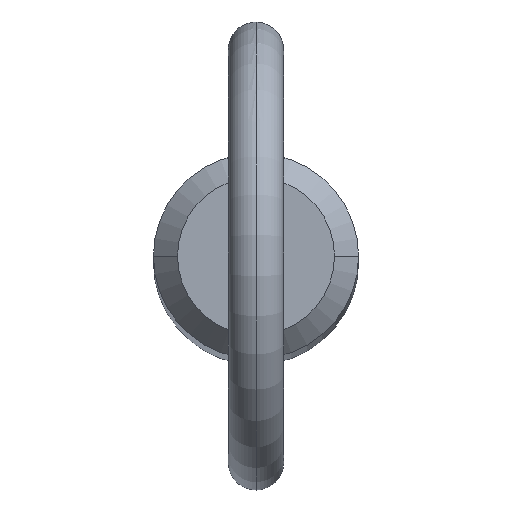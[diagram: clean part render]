
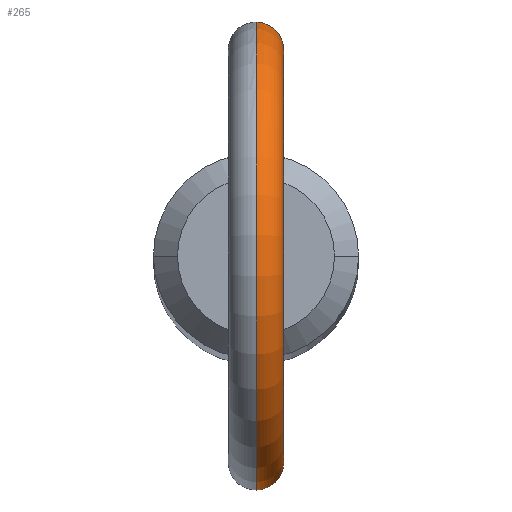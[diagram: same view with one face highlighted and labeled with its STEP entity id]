
A CAD part, top view. The second image highlights one B-rep face of the part: STEP entity #265.
In plain terms, the highlighted toroidal (fillet/blend) face has major radius 11.2 mm and minor radius 1.5 mm.
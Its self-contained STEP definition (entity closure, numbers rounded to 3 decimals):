
#27 = CARTESIAN_POINT ( 'NONE',  ( 0.106, -5.55, 174.945 ) ) ;
#35 = CARTESIAN_POINT ( 'NONE',  ( 0.933, 5.472, 174.504 ) ) ;
#39 = EDGE_CURVE ( 'NONE', #316, #66, #380, .T. ) ;
#46 = CARTESIAN_POINT ( 'NONE',  ( 1.363, -5.38, 172.334 ) ) ;
#66 = VERTEX_POINT ( 'NONE', #394 ) ;
#78 = B_SPLINE_CURVE_WITH_KNOTS ( 'NONE', 3,
 ( #439, #27, #483, #279, #238, #320, #518, #157, #198, #240, #453, #293, #248, #252, #301, #46, #250, #296, #456, #212, #493, #93, #420, #459, #214, #257 ),
 .UNSPECIFIED., .F., .F.,
 ( 4, 2, 2, 2, 2, 2, 2, 2, 2, 2, 2, 2, 4 ),
 ( 0.005, 0.005, 0.005, 0.006, 0.006, 0.007, 0.007, 0.008, 0.008, 0.009, 0.009, 0.009, 0.01 ),
 .UNSPECIFIED. ) ;
#79 = CARTESIAN_POINT ( 'NONE',  ( 0.522, 5.526, 171.565 ) ) ;
#81 = CARTESIAN_POINT ( 'NONE',  ( 0.212, 5.547, 171.488 ) ) ;
#90 = FACE_OUTER_BOUND ( 'NONE', #382, .T. ) ;
#93 = CARTESIAN_POINT ( 'NONE',  ( 0.523, -5.526, 171.566 ) ) ;
#102 = CARTESIAN_POINT ( 'NONE',  ( 0., 0., 182.9 ) ) ;
#116 = DIRECTION ( 'NONE',  ( 0., 0., -1. ) ) ;
#121 = CARTESIAN_POINT ( 'NONE',  ( 0.419, 5.535, 171.532 ) ) ;
#134 = CARTESIAN_POINT ( 'NONE',  ( 0.779, 5.496, 174.648 ) ) ;
#136 = CARTESIAN_POINT ( 'NONE',  ( 0.213, 5.55, 174.945 ) ) ;
#142 = ORIENTED_EDGE ( 'NONE', *, *, #267, .F. ) ;
#147 = DIRECTION ( 'NONE',  ( 1., 0., 0. ) ) ;
#157 = CARTESIAN_POINT ( 'NONE',  ( 1.194, -5.422, 174.171 ) ) ;
#160 = CARTESIAN_POINT ( 'NONE',  ( 1.19, 5.421, 172.062 ) ) ;
#163 = TOROIDAL_SURFACE ( 'NONE', #262, 11.2, 1.5 ) ;
#172 = VERTEX_POINT ( 'NONE', #357 ) ;
#198 = CARTESIAN_POINT ( 'NONE',  ( 1.295, -5.397, 173.982 ) ) ;
#201 = CARTESIAN_POINT ( 'NONE',  ( 1.509, 5.341, 172.953 ) ) ;
#203 = CARTESIAN_POINT ( 'NONE',  ( 0., -5.55, 171.477 ) ) ;
#204 = CARTESIAN_POINT ( 'NONE',  ( 1.352, 5.383, 172.335 ) ) ;
#212 = CARTESIAN_POINT ( 'NONE',  ( 0.807, -5.492, 171.706 ) ) ;
#214 = CARTESIAN_POINT ( 'NONE',  ( 0.107, -5.55, 171.477 ) ) ;
#222 = ORIENTED_EDGE ( 'NONE', *, *, #507, .F. ) ;
#224 = AXIS2_PLACEMENT_3D ( 'NONE', #297, #370, #247 ) ;
#225 = VERTEX_POINT ( 'NONE', #203 ) ;
#226 = DIRECTION ( 'NONE',  ( 0., 0., -1. ) ) ;
#238 = CARTESIAN_POINT ( 'NONE',  ( 0.515, -5.527, 174.822 ) ) ;
#240 = CARTESIAN_POINT ( 'NONE',  ( 1.44, -5.36, 173.586 ) ) ;
#241 = CARTESIAN_POINT ( 'NONE',  ( 0.107, 5.55, 171.477 ) ) ;
#244 = CARTESIAN_POINT ( 'NONE',  ( 1.44, 5.36, 173.588 ) ) ;
#246 = CARTESIAN_POINT ( 'NONE',  ( 1.194, 5.422, 174.172 ) ) ;
#247 = DIRECTION ( 'NONE',  ( 0., 0., -1. ) ) ;
#248 = CARTESIAN_POINT ( 'NONE',  ( 1.5, -5.343, 172.954 ) ) ;
#250 = CARTESIAN_POINT ( 'NONE',  ( 1.26, -5.407, 172.143 ) ) ;
#252 = CARTESIAN_POINT ( 'NONE',  ( 1.477, -5.35, 172.744 ) ) ;
#257 = CARTESIAN_POINT ( 'NONE',  ( 0., -5.55, 171.477 ) ) ;
#258 = CARTESIAN_POINT ( 'NONE',  ( 0., 5.55, 174.945 ) ) ;
#262 = AXIS2_PLACEMENT_3D ( 'NONE', #524, #291, #116 ) ;
#265 = ADVANCED_FACE ( 'NONE', ( #90 ), #163, .T. ) ;
#267 = EDGE_CURVE ( 'NONE', #66, #225, #78, .T. ) ;
#279 = CARTESIAN_POINT ( 'NONE',  ( 0.417, -5.535, 174.867 ) ) ;
#289 = CARTESIAN_POINT ( 'NONE',  ( 1.003, 5.459, 174.425 ) ) ;
#291 = DIRECTION ( 'NONE',  ( 1., 0., 0. ) ) ;
#292 = CARTESIAN_POINT ( 'NONE',  ( 1.486, 5.348, 172.738 ) ) ;
#293 = CARTESIAN_POINT ( 'NONE',  ( 1.503, -5.343, 173.059 ) ) ;
#296 = CARTESIAN_POINT ( 'NONE',  ( 1.055, -5.449, 171.905 ) ) ;
#297 = CARTESIAN_POINT ( 'NONE',  ( 0., 0., 182.9 ) ) ;
#301 = CARTESIAN_POINT ( 'NONE',  ( 1.455, -5.356, 172.638 ) ) ;
#316 = VERTEX_POINT ( 'NONE', #516 ) ;
#320 = CARTESIAN_POINT ( 'NONE',  ( 0.786, -5.497, 174.657 ) ) ;
#325 = B_SPLINE_CURVE_WITH_KNOTS ( 'NONE', 3,
 ( #478, #241, #81, #121, #79, #402, #410, #160, #447, #204, #445, #292, #201, #479, #244, #523, #246, #289, #35, #134, #496, #421, #136, #258 ),
 .UNSPECIFIED., .F., .F.,
 ( 4, 2, 2, 2, 2, 2, 2, 2, 2, 2, 2, 4 ),
 ( 0.001, 0.001, 0.001, 0.002, 0.002, 0.002, 0.003, 0.004, 0.004, 0.005, 0.005, 0.006 ),
 .UNSPECIFIED. ) ;
#357 = CARTESIAN_POINT ( 'NONE',  ( 0., 5.55, 171.477 ) ) ;
#367 = ORIENTED_EDGE ( 'NONE', *, *, #476, .T. ) ;
#370 = DIRECTION ( 'NONE',  ( 1., 0., 0. ) ) ;
#377 = CIRCLE ( 'NONE', #224, 12.7 ) ;
#380 = CIRCLE ( 'NONE', #499, 9.7 ) ;
#382 = EDGE_LOOP ( 'NONE', ( #222, #367, #142, #387 ) ) ;
#387 = ORIENTED_EDGE ( 'NONE', *, *, #39, .F. ) ;
#394 = CARTESIAN_POINT ( 'NONE',  ( 0., -5.55, 174.945 ) ) ;
#402 = CARTESIAN_POINT ( 'NONE',  ( 0.81, 5.494, 171.695 ) ) ;
#410 = CARTESIAN_POINT ( 'NONE',  ( 0.984, 5.464, 171.824 ) ) ;
#420 = CARTESIAN_POINT ( 'NONE',  ( 0.421, -5.535, 171.532 ) ) ;
#421 = CARTESIAN_POINT ( 'NONE',  ( 0.422, 5.537, 174.878 ) ) ;
#439 = CARTESIAN_POINT ( 'NONE',  ( 0., -5.55, 174.945 ) ) ;
#445 = CARTESIAN_POINT ( 'NONE',  ( 1.393, 5.372, 172.433 ) ) ;
#447 = CARTESIAN_POINT ( 'NONE',  ( 1.251, 5.407, 172.15 ) ) ;
#453 = CARTESIAN_POINT ( 'NONE',  ( 1.486, -5.347, 173.374 ) ) ;
#456 = CARTESIAN_POINT ( 'NONE',  ( 0.977, -5.464, 171.832 ) ) ;
#459 = CARTESIAN_POINT ( 'NONE',  ( 0.213, -5.547, 171.488 ) ) ;
#476 = EDGE_CURVE ( 'NONE', #172, #225, #377, .T. ) ;
#478 = CARTESIAN_POINT ( 'NONE',  ( 0., 5.55, 171.477 ) ) ;
#479 = CARTESIAN_POINT ( 'NONE',  ( 1.485, 5.348, 173.378 ) ) ;
#483 = CARTESIAN_POINT ( 'NONE',  ( 0.214, -5.547, 174.928 ) ) ;
#493 = CARTESIAN_POINT ( 'NONE',  ( 0.716, -5.504, 171.652 ) ) ;
#496 = CARTESIAN_POINT ( 'NONE',  ( 0.694, 5.507, 174.714 ) ) ;
#499 = AXIS2_PLACEMENT_3D ( 'NONE', #102, #147, #226 ) ;
#507 = EDGE_CURVE ( 'NONE', #172, #316, #325, .T. ) ;
#516 = CARTESIAN_POINT ( 'NONE',  ( 0., 5.55, 174.945 ) ) ;
#518 = CARTESIAN_POINT ( 'NONE',  ( 0.941, -5.471, 174.507 ) ) ;
#523 = CARTESIAN_POINT ( 'NONE',  ( 1.294, 5.398, 173.985 ) ) ;
#524 = CARTESIAN_POINT ( 'NONE',  ( 0., 0., 182.9 ) ) ;
